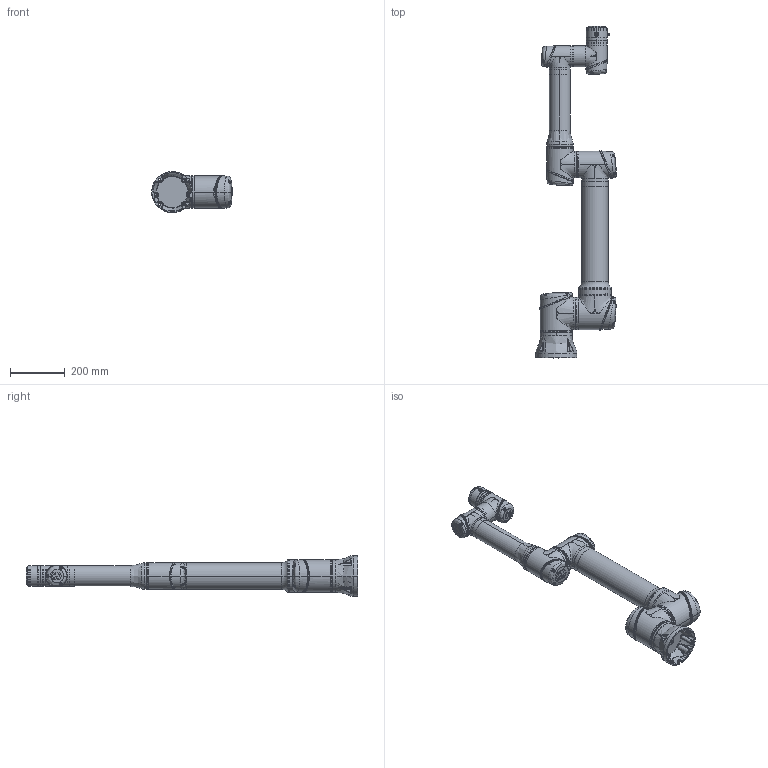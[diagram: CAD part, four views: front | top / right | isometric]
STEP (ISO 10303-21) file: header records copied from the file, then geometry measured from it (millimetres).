
FILE_DESCRIPTION (( 'STEP AP203' ), '1' );
FILE_NAME ('CS_掛极CS66AZ_V1.4.STEP', '2026-07-27T06:22:18', ( '' ), ( '' ), 'SwSTEP 2.0', 'SolidWorks 2020', '' );
FILE_SCHEMA (( 'CONFIG_CONTROL_DESIGN' ));
Length unit declared in the file: millimetre
Products named in the file (8): CS66AZ_Link4; CS_掛极CS66AZ_V1.4; CS66AZ_Link1; CS66AZ-Flange; CS66AZ_Link5; CS66AZ_Link2; CS66AZ_Link3; CS66AZ_Base
Assembly tree (7 placements, depth 2):
  CS_掛极CS66AZ_V1.4
    CS66AZ_Base
    CS66AZ_Link1
    CS66AZ_Link2
    CS66AZ_Link3
    CS66AZ_Link4
    CS66AZ_Link5
    CS66AZ-Flange
Bounding box: 293.79 x 1211 x 149.7 mm (x, y, z)
Volume: 10567935.5 mm3; surface area: 866719.8 mm2
Topology: 14 solids, 149 shells, 6498 faces, 15894 edges, 9499 vertices
Faces by surface type: bspline 3571, plane 1168, cylinder 885, cone 687, torus 108, sphere 79
Entity records: 782860 total; most frequent: CARTESIAN_POINT 662087, ORIENTED_EDGE 30955, DIRECTION 15846, EDGE_CURVE 15479, VERTEX_POINT 9478, B_SPLINE_CURVE_WITH_KNOTS 8790, EDGE_LOOP 6798, AXIS2_PLACEMENT_3D 6525
